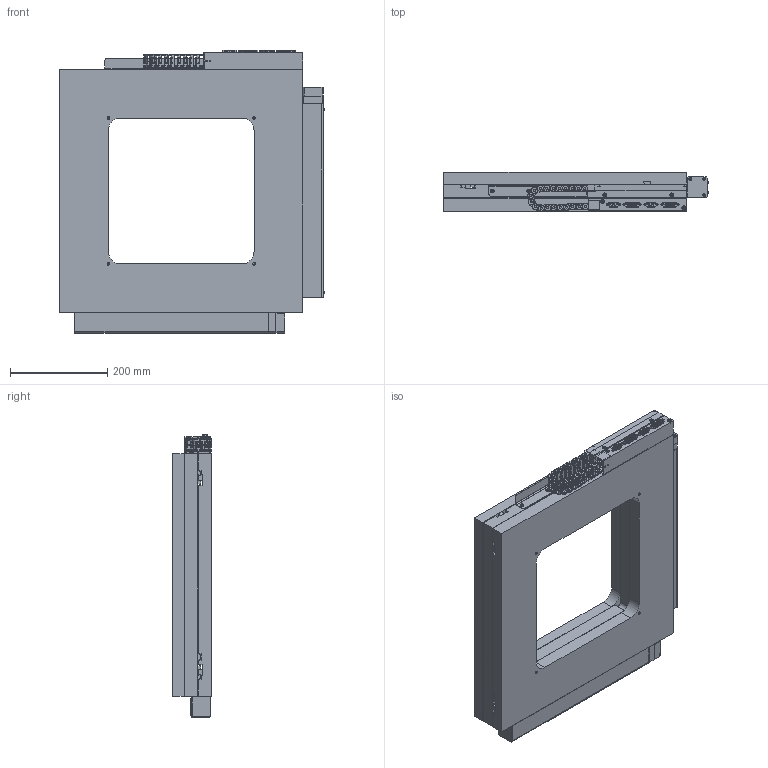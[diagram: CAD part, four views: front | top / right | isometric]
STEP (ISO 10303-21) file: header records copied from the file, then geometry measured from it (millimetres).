
FILE_DESCRIPTION (( 'STEP AP214' ), '1' );
FILE_NAME ('OXY-300-Linear Encoder-EXPORT.STEP', '2026-05-13T17:42:13', ( 'lab' ), ( '' ), 'SwSTEP 2.0', 'SolidWorks 2018', '' );
FILE_SCHEMA (( 'AUTOMOTIVE_DESIGN' ));
Length unit declared in the file: millimetre
Products named in the file (12): OXY-300-Linear Encoder-EXPORT; 1000011_file_export43; 1000001_file_export2; 1000009_file_export29; 1000008_file_export17; 1000010_file_export28; 1000004_file_export6; 1000006_file_export9; 1000003_file_export3; 1000007_file_export32; 1000002_file_export4; 1000005_file_export7
Assembly tree (42 placements, depth 2):
  OXY-300-Linear Encoder-EXPORT
    1000001_file_export2
    1000002_file_export4
    1000003_file_export3
    1000004_file_export6  x2
    1000005_file_export7  x2
    1000006_file_export9  x2
    1000007_file_export32  x8
    1000008_file_export17
    1000009_file_export29  x4
    1000010_file_export28
    1000011_file_export43  x19
Bounding box: 544.5 x 80 x 584.7 mm (x, y, z)
Volume: 14031910.2 mm3; surface area: 1808511 mm2
Topology: 161 solids, 161 shells, 4901 faces, 12377 edges, 7908 vertices
Faces by surface type: plane 2750, cylinder 1497, bspline 340, cone 278, torus 20, sphere 16
Entity records: 77272 total; most frequent: CARTESIAN_POINT 17346, DIRECTION 10669, ORIENTED_EDGE 10388, EDGE_CURVE 5194, AXIS2_PLACEMENT_3D 3675, VECTOR 3319, LINE 3319, VERTEX_POINT 3310
